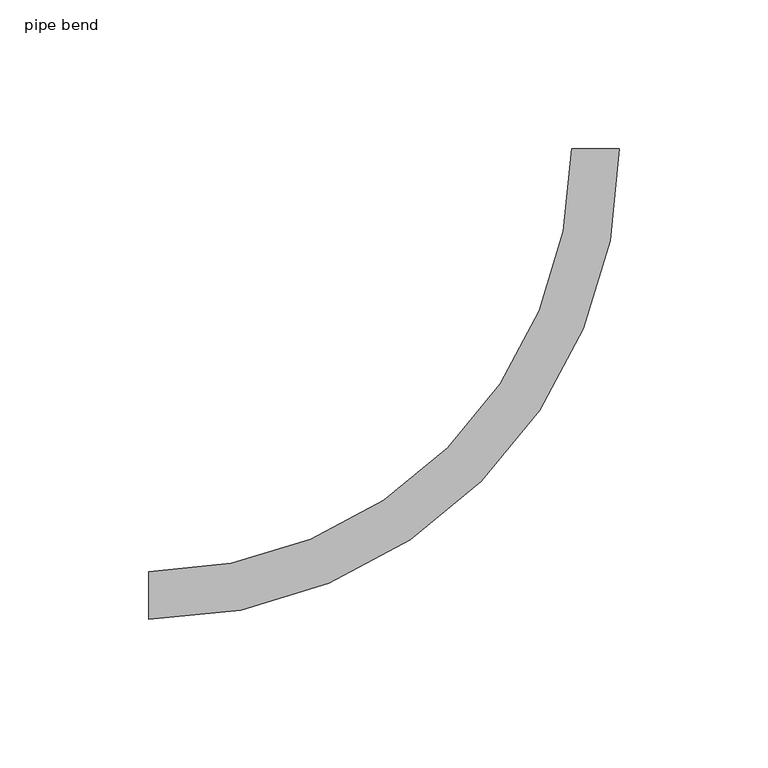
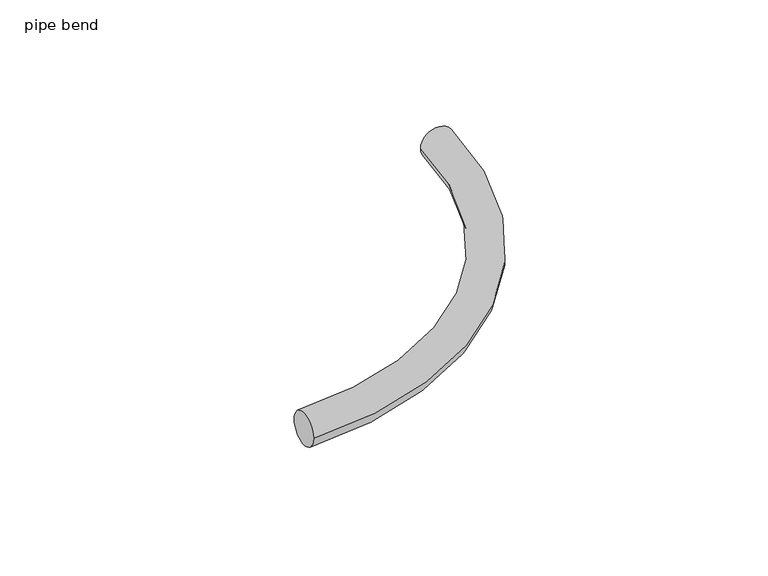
"""IFC4 building model written with IfcOpenShell, lengths in millimetres: pipe fitting geometry, pipe bend : PE-RT/AL/PE-RT FLOORTHERM."""

from ifc_helpers import new_model, si_unit, point, frame, origin, place, context, project, spatial, circle_curve, ellipse_curve, trimmed, source, transform, mapped, element, save
from ifc_brep_helpers import plane_surface, revolved_surface, advanced_brep


def pipe_bend_ea9df909(model_context):
    return source(origin(), model_context, "Body", "AdvancedBrep", [
        advanced_brep(
        [(-150.0, -8.0, 0.0), (-150.0, 8.0, 0.0), (8.0, 150.0, 0.0), (-8.0, 150.0, 0.0)],
        [
            (0, 1, circle_curve(frame((-150.0, 0.0, 0.0), z_axis=(-1.0, 0.0, 0.0), x_axis=(0.0, 1.0, 0.0)), 8.0)),
            (1, 0, circle_curve(frame((-150.0, 0.0, 0.0), z_axis=(-1.0, 0.0, 0.0), x_axis=(0.0, 1.0, 0.0)), 8.0)),
            (2, 3, circle_curve(frame((0.0, 150.0, 0.0), z_axis=(0.0, 1.0, 0.0), x_axis=(-1.0, 0.0, 0.0)), 8.0)),
            (3, 2, circle_curve(frame((0.0, 150.0, 0.0), z_axis=(0.0, 1.0, 0.0), x_axis=(-1.0, 0.0, 0.0)), 8.0)),
            (3, 1, circle_curve(frame((-150.0, 150.0, 0.0), z_axis=(0.0, 0.0, -1.0), x_axis=(0.0, -1.0, 0.0)), 142.0)),
            (0, 2, circle_curve(frame((-150.0, 150.0, 0.0), z_axis=(0.0, 0.0, 1.0), x_axis=(0.0, -1.0, 0.0)), 158.0)),
        ],
        [
            plane_surface(frame((-150.0, 0.0, 0.0), z_axis=(-1.0, 0.0, 0.0), x_axis=(0.0, 0.0, 1.0))),
            plane_surface(frame((0.0, 150.0, 0.0), z_axis=(0.0, 1.0, 0.0), x_axis=(0.0, 0.0, 1.0))),
            revolved_surface(trimmed(ellipse_curve(frame((-150.0, 0.0, 0.0), z_axis=(-1.0, 0.0, 0.0), x_axis=(0.0, 1.0, 0.0)), 8.0, 8.0), [point((-150.0, -8.0, 0.0))], [point((-150.0, 8.0, 0.0))], True, "CARTESIAN"), (-150.0, 150.0, 0.0), (0.0, 0.0, 1.0)),
            revolved_surface(trimmed(ellipse_curve(frame((-150.0, 0.0, 0.0), z_axis=(-1.0, 0.0, 0.0), x_axis=(0.0, 1.0, 0.0)), 8.0, 8.0), [point((-150.0, 8.0, 0.0))], [point((-150.0, -8.0, 0.0))], True, "CARTESIAN"), (-150.0, 150.0, 0.0), (0.0, 0.0, 1.0)),
        ],
        [
            (0, [[1, 2]]),
            (1, [[3, 4]]),
            (2, [[5, -1, 6, -4]]),
            (3, [[-6, -2, -5, -3]]),
        ],
    ),
    ])


if __name__ == "__main__":
    model = new_model("IFC4")
    model_context = context("Model", 3, world=origin())
    ifc_project = project(units=[si_unit("LENGTHUNIT", "METRE", prefix="MILLI")], contexts=[model_context])
    site = spatial("IfcSite", under=ifc_project)
    building = spatial("IfcBuilding", under=site)
    placement = place(None, origin())
    pipe_bend_shape = pipe_bend_ea9df909(model_context)
    element("IfcPipeFitting", 1, ObjectType="pipe bend : PE-RT/AL/PE-RT FLOORTHERM", at=placement, inside=building, context=model_context, shape_type="MappedRepresentation", body=[
        mapped(pipe_bend_shape, transform((0.0, 0.0, 0.0), x_axis=(1.0, 0.0, 0.0), y_axis=(0.0, 1.0, 0.0), z_axis=(0.0, 0.0, 1.0))),
    ])
    save(model, "model.ifc")
